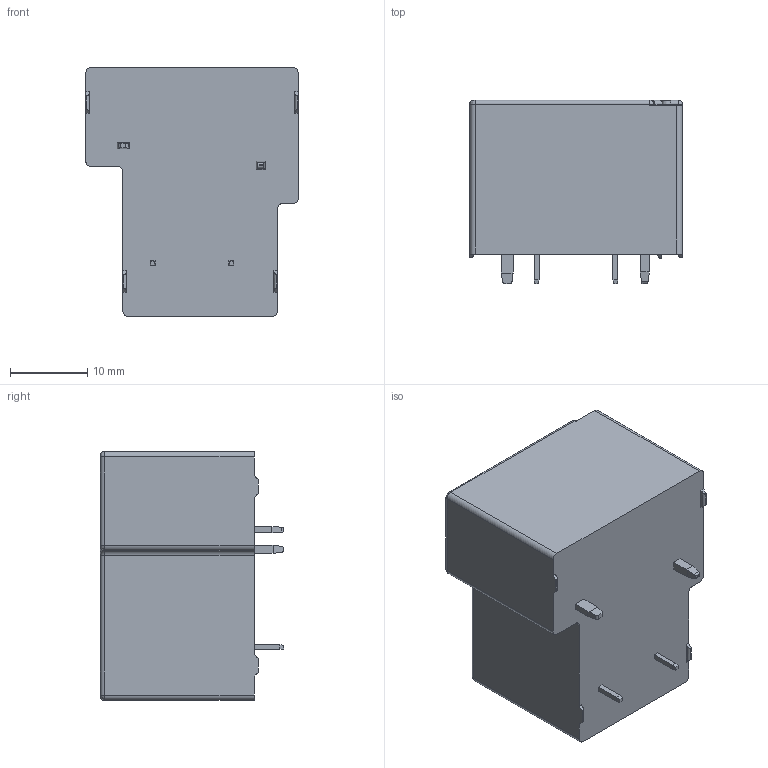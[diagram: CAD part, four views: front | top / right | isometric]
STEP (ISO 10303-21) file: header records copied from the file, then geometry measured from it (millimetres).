
FILE_DESCRIPTION(('FreeCAD Model'),'2;1');
FILE_NAME('C:/Users/Jane Koetz/Desktop/J1NA.stp','2020-05-21T10:59:14',( 'VKV'),('Metaltex'),'Open CASCADE STEP processor 7.3','FreeCAD', 'Unknown');
FILE_SCHEMA(('AUTOMOTIVE_DESIGN { 1 0 10303 214 1 1 1 1 }'));
Length unit declared in the file: millimetre
Products named in the file (1): J1NA
Bounding box: 27.5 x 23.7 x 32.2 mm (x, y, z)
Volume: 14958 mm3; surface area: 4892.9 mm2
Topology: 1 solids, 3 shells, 236 faces, 626 edges, 372 vertices
Faces by surface type: cylinder 88, plane 78, torus 23, bspline 23, sphere 18, cone 6
Entity records: 9211 total; most frequent: CARTESIAN_POINT 1823, DIRECTION 1239, ORIENTED_EDGE 1188, EDGE_CURVE 594, AXIS2_PLACEMENT_3D 459, VERTEX_POINT 372, LINE 321, VECTOR 321
